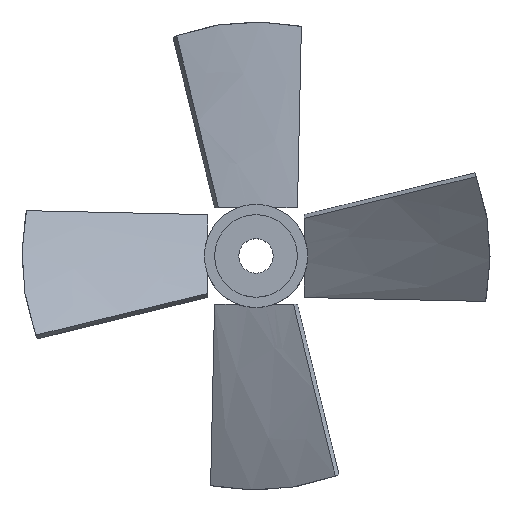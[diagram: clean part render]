
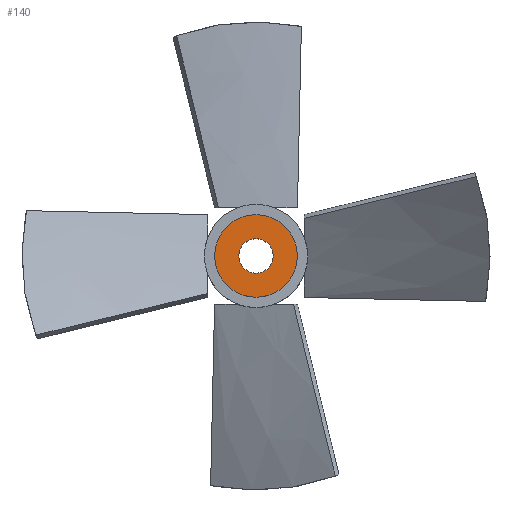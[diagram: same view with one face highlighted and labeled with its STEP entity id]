
A CAD part, top view. The second image highlights one B-rep face of the part: STEP entity #140.
In plain terms, the highlighted planar face has unit normal (0, 0, 1).
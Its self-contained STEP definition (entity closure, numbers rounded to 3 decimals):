
#24 = VERTEX_POINT('',#25);
#25 = CARTESIAN_POINT('',(12.,0.,26.));
#32 = CYLINDRICAL_SURFACE('',#33,12.);
#33 = AXIS2_PLACEMENT_3D('',#34,#35,#36);
#34 = CARTESIAN_POINT('',(0.,0.,22.));
#35 = DIRECTION('',(-0.,-0.,-1.));
#36 = DIRECTION('',(1.,0.,0.));
#51 = EDGE_CURVE('',#24,#24,#52,.T.);
#52 = SURFACE_CURVE('',#53,(#58,#65),.PCURVE_S1.);
#53 = CIRCLE('',#54,12.);
#54 = AXIS2_PLACEMENT_3D('',#55,#56,#57);
#55 = CARTESIAN_POINT('',(0.,0.,26.));
#56 = DIRECTION('',(0.,0.,1.));
#57 = DIRECTION('',(1.,0.,0.));
#58 = PCURVE('',#32,#59);
#59 = DEFINITIONAL_REPRESENTATION('',(#60),#64);
#60 = LINE('',#61,#62);
#61 = CARTESIAN_POINT('',(-0.,-4.));
#62 = VECTOR('',#63,1.);
#63 = DIRECTION('',(-1.,0.));
#64 = ( GEOMETRIC_REPRESENTATION_CONTEXT(2) 
PARAMETRIC_REPRESENTATION_CONTEXT() REPRESENTATION_CONTEXT('2D SPACE',''
  ) );
#65 = PCURVE('',#66,#71);
#66 = PLANE('',#67);
#67 = AXIS2_PLACEMENT_3D('',#68,#69,#70);
#68 = CARTESIAN_POINT('',(0.,0.,26.));
#69 = DIRECTION('',(0.,0.,1.));
#70 = DIRECTION('',(1.,0.,0.));
#71 = DEFINITIONAL_REPRESENTATION('',(#72),#76);
#72 = CIRCLE('',#73,12.);
#73 = AXIS2_PLACEMENT_2D('',#74,#75);
#74 = CARTESIAN_POINT('',(0.,0.));
#75 = DIRECTION('',(1.,0.));
#76 = ( GEOMETRIC_REPRESENTATION_CONTEXT(2) 
PARAMETRIC_REPRESENTATION_CONTEXT() REPRESENTATION_CONTEXT('2D SPACE',''
  ) );
#140 = ADVANCED_FACE('',(#141,#144),#66,.T.);
#141 = FACE_BOUND('',#142,.T.);
#142 = EDGE_LOOP('',(#143));
#143 = ORIENTED_EDGE('',*,*,#51,.T.);
#144 = FACE_BOUND('',#145,.T.);
#145 = EDGE_LOOP('',(#146));
#146 = ORIENTED_EDGE('',*,*,#147,.F.);
#147 = EDGE_CURVE('',#148,#148,#150,.T.);
#148 = VERTEX_POINT('',#149);
#149 = CARTESIAN_POINT('',(5.,0.,26.));
#150 = SURFACE_CURVE('',#151,(#156,#163),.PCURVE_S1.);
#151 = CIRCLE('',#152,5.);
#152 = AXIS2_PLACEMENT_3D('',#153,#154,#155);
#153 = CARTESIAN_POINT('',(0.,0.,26.));
#154 = DIRECTION('',(0.,0.,1.));
#155 = DIRECTION('',(1.,0.,0.));
#156 = PCURVE('',#66,#157);
#157 = DEFINITIONAL_REPRESENTATION('',(#158),#162);
#158 = CIRCLE('',#159,5.);
#159 = AXIS2_PLACEMENT_2D('',#160,#161);
#160 = CARTESIAN_POINT('',(0.,0.));
#161 = DIRECTION('',(1.,0.));
#162 = ( GEOMETRIC_REPRESENTATION_CONTEXT(2) 
PARAMETRIC_REPRESENTATION_CONTEXT() REPRESENTATION_CONTEXT('2D SPACE',''
  ) );
#163 = PCURVE('',#164,#169);
#164 = CYLINDRICAL_SURFACE('',#165,5.);
#165 = AXIS2_PLACEMENT_3D('',#166,#167,#168);
#166 = CARTESIAN_POINT('',(0.,0.,22.));
#167 = DIRECTION('',(-0.,-0.,-1.));
#168 = DIRECTION('',(1.,0.,0.));
#169 = DEFINITIONAL_REPRESENTATION('',(#170),#174);
#170 = LINE('',#171,#172);
#171 = CARTESIAN_POINT('',(-0.,-4.));
#172 = VECTOR('',#173,1.);
#173 = DIRECTION('',(-1.,0.));
#174 = ( GEOMETRIC_REPRESENTATION_CONTEXT(2) 
PARAMETRIC_REPRESENTATION_CONTEXT() REPRESENTATION_CONTEXT('2D SPACE',''
  ) );
